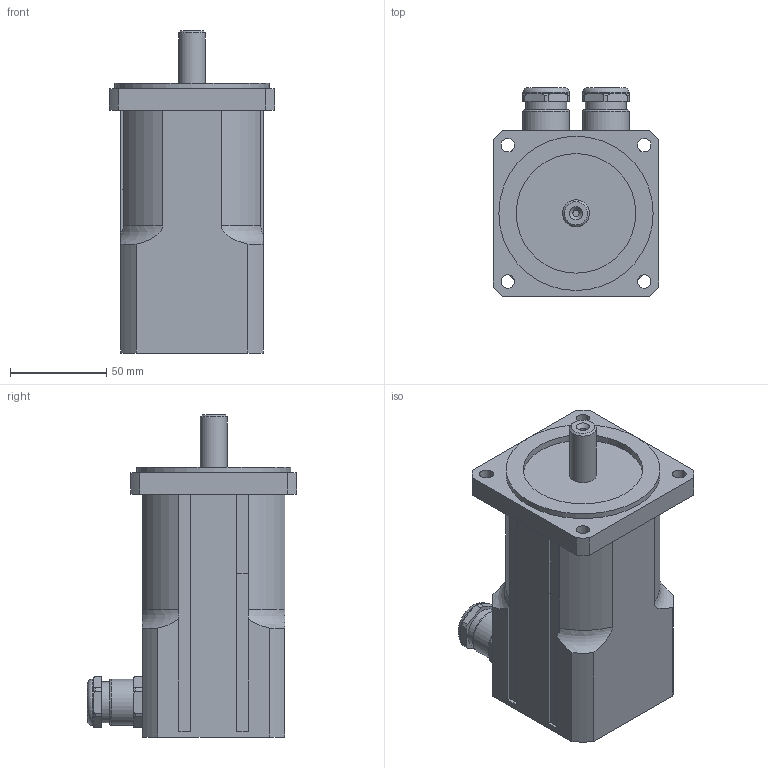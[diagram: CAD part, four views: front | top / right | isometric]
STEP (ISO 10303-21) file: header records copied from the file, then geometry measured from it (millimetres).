
FILE_DESCRIPTION(/* description */ ('Alibre Inc.'),/* implementation_level */ '2;1');
FILE_NAME(/* name */ 'export0',/* time_stamp */ '2011-07-28T10:06:44+02:00',/* author */ (''),/* organization */ (''),/* preprocessor_version */ 'ST-DEVELOPER v12',/* originating_system */ 'Alibre',/* authorisation */ '');
FILE_SCHEMA (('CONFIG_CONTROL_DESIGN'));
Length unit declared in the file: millimetre
Products named in the file (4): ID_1
Bounding box: 86 x 108.4 x 167 mm (x, y, z)
Volume: 738450.2 mm3; surface area: 76110 mm2
Topology: 4 solids, 4 shells, 188 faces, 470 edges, 302 vertices
Faces by surface type: plane 87, cylinder 49, torus 32, bspline 19, cone 1
Full cylindrical faces by diameter (mm): 12 x2, 14 x1, 20 x2, 21.4 x2, 24 x4, 62 x1, 80 x1
Entity records: 4944 total; most frequent: CARTESIAN_POINT 1641, ORIENTED_EDGE 596, DIRECTION 524, EDGE_CURVE 298, AXIS2_PLACEMENT_3D 221, VERTEX_POINT 204, EDGE_LOOP 166, FACE_BOUND 166
